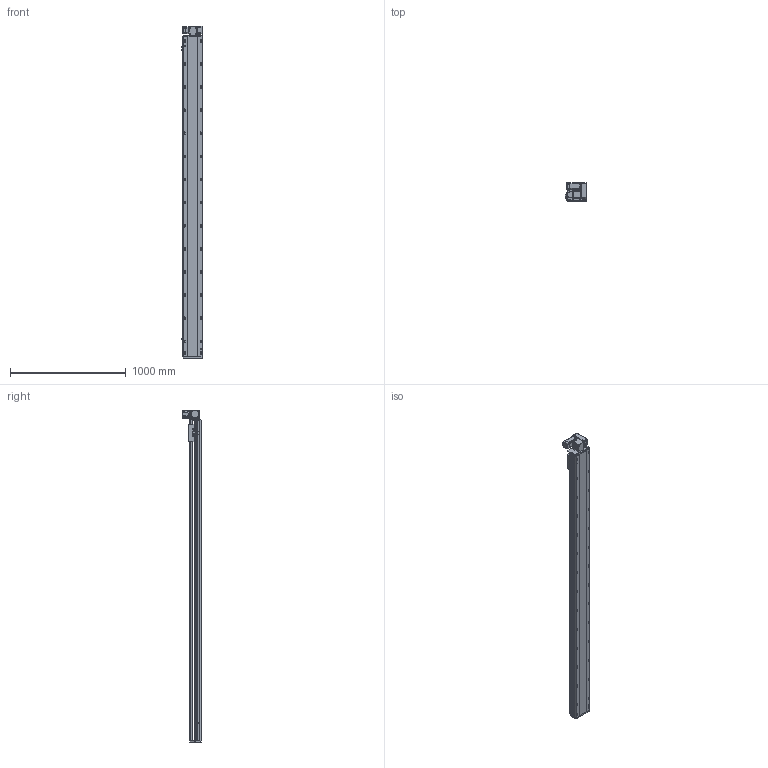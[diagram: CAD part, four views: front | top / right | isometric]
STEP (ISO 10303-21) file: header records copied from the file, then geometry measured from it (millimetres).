
FILE_DESCRIPTION (( 'STEP AP214' ), '1' );
FILE_NAME ('RTB17S-XX-2500-RW-M40-C4.STEP', '2025-12-11T09:13:02', ( '' ), ( '' ), 'SwSTEP 2.0', 'SolidWorks 2018', '' );
FILE_SCHEMA (( 'AUTOMOTIVE_DESIGN' ));
Length unit declared in the file: millimetre
Products named in the file (14): OMRON EE-SX672 传感器^RTB17S-XX-XX-RW-M40-C4; RTB17S-L-001耜醱啣^RTB17S-XX-XX-RW-M40-C4; RTB17S-RW-々湍釱蚾饜-400W^RTB17S-XX-XX-RW-M40-C4; RTB17-R-011菁釱^RTB17S-XX-XX-RW-M40-C4; RTB14-L-018P^RTB17S-RW-々湍釱蚾饜-400W_RTB17S-XX-XX-RW-M40-C4; RTB17S-XX-2500-RW-M40-C4; RMP17S-L-014-T20--々湍釱^RTB17S-RW-々湍釱蚾饜-400W_RTB17S-XX-XX-RW-M40-C4; RTB14-L-017P^RTB17S-RW-々湍釱蚾饜-400W_RTB17S-XX-XX-RW-M40-C4; 400W侜督萇儂^RTB17S-XX-XX-RW-M40-C4; RTB17S-L-004佪裝蹟譫蟀諉釱^RTB17S-XX-XX-RW-M40-C4; RTH13-BL-012覜茼え俋离^RTB17S-XX-XX-RW-M40-C4; RTB14-L-005P--轴承塑胶压盖^RTB17S-RW-皮带座装配-400W_RTB17S-XX-XX-RW-M40-C4; RTB14-L-008-M20--萇儂啣^RTB17S-RW-々湍釱蚾饜-400W_RTB17S-XX-XX-RW-M40-C4; RTB17S-L-007奻裔^RTB17S-XX-XX-RW-M40-C4
Assembly tree (16 placements, depth 3):
  RTB17S-XX-2500-RW-M40-C4
    RTB17-R-011菁釱^RTB17S-XX-XX-RW-M40-C4
    RTB17S-L-007奻裔^RTB17S-XX-XX-RW-M40-C4
    OMRON EE-SX672 传感器^RTB17S-XX-XX-RW-M40-C4  x3
    RTB17S-L-001耜醱啣^RTB17S-XX-XX-RW-M40-C4
    400W侜督萇儂^RTB17S-XX-XX-RW-M40-C4
    RTB17S-L-004佪裝蹟譫蟀諉釱^RTB17S-XX-XX-RW-M40-C4
    RTH13-BL-012覜茼え俋离^RTB17S-XX-XX-RW-M40-C4
    RTB17S-RW-々湍釱蚾饜-400W^RTB17S-XX-XX-RW-M40-C4
      RMP17S-L-014-T20--々湍釱^RTB17S-RW-々湍釱蚾饜-400W_RTB17S-XX-XX-RW-M40-C4
      RTB14-L-005P--轴承塑胶压盖^RTB17S-RW-皮带座装配-400W_RTB17S-XX-XX-RW-M40-C4
      RTB14-L-008-M20--萇儂啣^RTB17S-RW-々湍釱蚾饜-400W_RTB17S-XX-XX-RW-M40-C4
      RTB14-L-017P^RTB17S-RW-々湍釱蚾饜-400W_RTB17S-XX-XX-RW-M40-C4  x2
      RTB14-L-018P^RTB17S-RW-々湍釱蚾饜-400W_RTB17S-XX-XX-RW-M40-C4
Bounding box: 183.5 x 160.5 x 2872.5 mm (x, y, z)
Volume: 24604101.7 mm3; surface area: 2832901.2 mm2
Topology: 15 solids, 15 shells, 2333 faces, 6519 edges, 4257 vertices
Faces by surface type: plane 1084, cylinder 801, bspline 301, cone 139, torus 8
Entity records: 68777 total; most frequent: CARTESIAN_POINT 19524, ORIENTED_EDGE 9882, DIRECTION 9116, EDGE_CURVE 4941, VERTEX_POINT 3245, AXIS2_PLACEMENT_3D 3175, VECTOR 2766, LINE 2766
